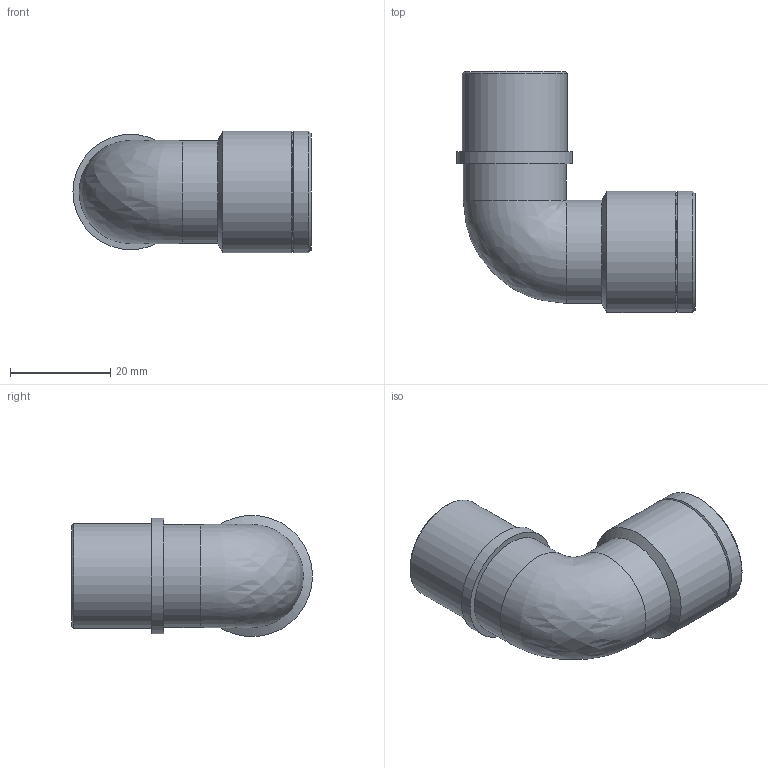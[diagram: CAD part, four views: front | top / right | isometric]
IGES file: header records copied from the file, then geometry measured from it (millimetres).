
Global section: file name: 051507005_0515070050A.ipt; native system: Autodesk Inventor 2015; preprocessor: unknown; author: KIM; date: 20180617.111939; units: millimetre
Bounding box: 47.53 x 48.11 x 24.22 mm (x, y, z)
Volume: 10925.9 mm3; surface area: 8738.9 mm2
Topology: 1 solids, 1 shells, 21 faces, 45 edges, 26 vertices
Faces by surface type: cylinder 6, revolution 5, cone 5, plane 4, bspline 1
Full cylindrical faces by diameter (mm): 20.587 x2, 20.955 x1, 23.05 x1, 24.22 x2
